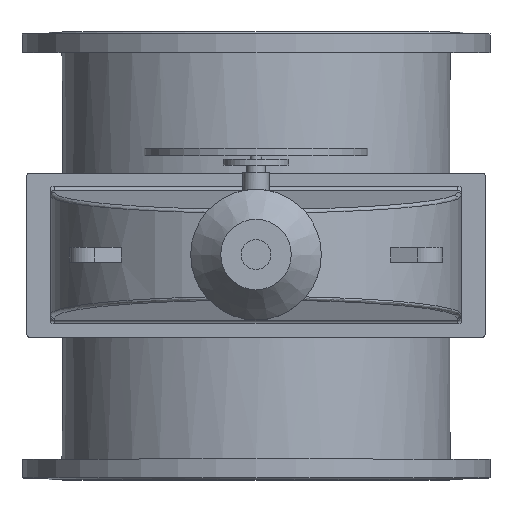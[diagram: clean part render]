
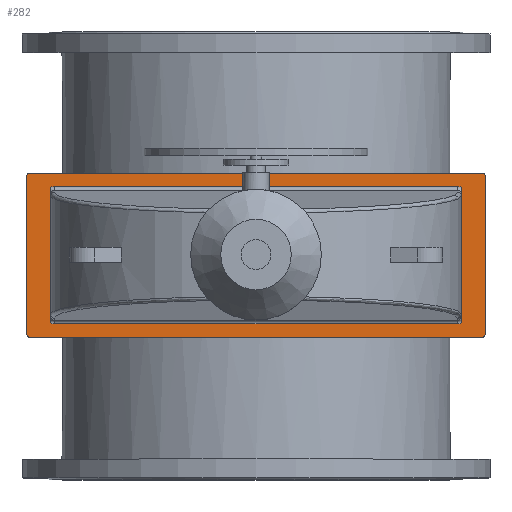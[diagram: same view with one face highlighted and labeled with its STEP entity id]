
A CAD part, top view. The second image highlights one B-rep face of the part: STEP entity #282.
In plain terms, the highlighted planar face has unit normal (0, 0, 1).
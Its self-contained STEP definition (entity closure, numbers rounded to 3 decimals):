
#282=ADVANCED_FACE('',(#3621,#3623),#3625,.T.);
#3621=FACE_BOUND('',#3622,.T.);
#3622=EDGE_LOOP('',(#8276,#8277,#8278,#8279,#8280,#8281,#8282,#8283));
#3623=FACE_BOUND('',#3624,.T.);
#3624=EDGE_LOOP('',(#8284,#8285,#8286,#8287,#8288,#8289,#8290,#8291));
#3625=PLANE('',#3626);
#3626=AXIS2_PLACEMENT_3D('',#3627,#3628,#3629);
#3627=CARTESIAN_POINT('',(0.,0.,1286.));
#3628=DIRECTION('',(0.,-0.,1.));
#3629=DIRECTION('',(0.,1.,0.));
#8276=ORIENTED_EDGE('',*,*,#9570,.F.);
#8277=ORIENTED_EDGE('',*,*,#9571,.T.);
#8278=ORIENTED_EDGE('',*,*,#9572,.F.);
#8279=ORIENTED_EDGE('',*,*,#9573,.T.);
#8280=ORIENTED_EDGE('',*,*,#9574,.F.);
#8281=ORIENTED_EDGE('',*,*,#9575,.T.);
#8282=ORIENTED_EDGE('',*,*,#9576,.F.);
#8283=ORIENTED_EDGE('',*,*,#9577,.T.);
#8284=ORIENTED_EDGE('',*,*,#9578,.F.);
#8285=ORIENTED_EDGE('',*,*,#9540,.F.);
#8286=ORIENTED_EDGE('',*,*,#9579,.F.);
#8287=ORIENTED_EDGE('',*,*,#9580,.F.);
#8288=ORIENTED_EDGE('',*,*,#9581,.F.);
#8289=ORIENTED_EDGE('',*,*,#9529,.F.);
#8290=ORIENTED_EDGE('',*,*,#9568,.F.);
#8291=ORIENTED_EDGE('',*,*,#9582,.F.);
#9529=EDGE_CURVE('',#10217,#10220,#10221,.T.);
#9540=EDGE_CURVE('',#10237,#10232,#10239,.T.);
#9568=EDGE_CURVE('',#10283,#10217,#10284,.F.);
#9570=EDGE_CURVE('',#10286,#10287,#10288,.F.);
#9571=EDGE_CURVE('',#10286,#10289,#10290,.T.);
#9572=EDGE_CURVE('',#10291,#10289,#10292,.F.);
#9573=EDGE_CURVE('',#10291,#10293,#10294,.T.);
#9574=EDGE_CURVE('',#10295,#10293,#10296,.F.);
#9575=EDGE_CURVE('',#10295,#10297,#10298,.T.);
#9576=EDGE_CURVE('',#10299,#10297,#10300,.F.);
#9577=EDGE_CURVE('',#10299,#10287,#10301,.T.);
#9578=EDGE_CURVE('',#10232,#10302,#10303,.T.);
#9579=EDGE_CURVE('',#10304,#10237,#10305,.F.);
#9580=EDGE_CURVE('',#10306,#10304,#10307,.T.);
#9581=EDGE_CURVE('',#10220,#10306,#10308,.T.);
#9582=EDGE_CURVE('',#10302,#10283,#10309,.T.);
#10217=VERTEX_POINT('',#11554);
#10220=VERTEX_POINT('',#11607);
#10221=LINE('',#11608,#11609);
#10232=VERTEX_POINT('',#11684);
#10237=VERTEX_POINT('',#11743);
#10239=LINE('',#11795,#11796);
#10283=VERTEX_POINT('',#11907);
#10284=(BOUNDED_CURVE()B_SPLINE_CURVE(3,
(#11908,#11909,#11910,#11911),
.UNSPECIFIED.,.F.,.F.)B_SPLINE_CURVE_WITH_KNOTS((4,4),
(0.,1.),
.UNSPECIFIED.)CURVE()GEOMETRIC_REPRESENTATION_ITEM()RATIONAL_B_SPLINE_CURVE((1.,
0.977,0.977,1.))REPRESENTATION_ITEM(''));
#10286=VERTEX_POINT('',#11916);
#10287=VERTEX_POINT('',#11917);
#10288=CIRCLE('',#11918,10.);
#10289=VERTEX_POINT('',#11922);
#10290=LINE('',#11923,#11924);
#10291=VERTEX_POINT('',#11926);
#10292=CIRCLE('',#11927,10.);
#10293=VERTEX_POINT('',#11931);
#10294=LINE('',#11932,#11933);
#10295=VERTEX_POINT('',#11935);
#10296=CIRCLE('',#11936,10.);
#10297=VERTEX_POINT('',#11940);
#10298=LINE('',#11941,#11942);
#10299=VERTEX_POINT('',#11944);
#10300=CIRCLE('',#11945,10.);
#10301=LINE('',#11949,#11950);
#10302=VERTEX_POINT('',#11952);
#10303=(BOUNDED_CURVE()B_SPLINE_CURVE(3,
(#11953,#11954,#11955,#11956),
.UNSPECIFIED.,.F.,.F.)B_SPLINE_CURVE_WITH_KNOTS((4,4),
(0.,1.),
.UNSPECIFIED.)CURVE()GEOMETRIC_REPRESENTATION_ITEM()RATIONAL_B_SPLINE_CURVE((1.,
0.977,0.977,1.))REPRESENTATION_ITEM(''));
#10304=VERTEX_POINT('',#11957);
#10305=(BOUNDED_CURVE()B_SPLINE_CURVE(3,
(#11958,#11959,#11960,#11961),
.UNSPECIFIED.,.F.,.F.)B_SPLINE_CURVE_WITH_KNOTS((4,4),
(0.,1.),
.UNSPECIFIED.)CURVE()GEOMETRIC_REPRESENTATION_ITEM()RATIONAL_B_SPLINE_CURVE((1.,
0.977,0.977,1.))REPRESENTATION_ITEM(''));
#10306=VERTEX_POINT('',#11962);
#10307=LINE('',#11963,#11964);
#10308=(BOUNDED_CURVE()B_SPLINE_CURVE(3,
(#11966,#11967,#11968,#11969),
.UNSPECIFIED.,.F.,.F.)B_SPLINE_CURVE_WITH_KNOTS((4,4),
(0.,1.),
.UNSPECIFIED.)CURVE()GEOMETRIC_REPRESENTATION_ITEM()RATIONAL_B_SPLINE_CURVE((1.,
0.977,0.977,1.))REPRESENTATION_ITEM(''));
#10309=LINE('',#11970,#11971);
#11554=CARTESIAN_POINT('',(550.,-181.474,1286.));
#11607=CARTESIAN_POINT('',(550.,181.474,1286.));
#11608=CARTESIAN_POINT('',(550.,-181.474,1286.));
#11609=VECTOR('',#11610,1.);
#11610=DIRECTION('',(0.,1.,0.));
#11684=CARTESIAN_POINT('',(-550.,-181.474,1286.));
#11743=CARTESIAN_POINT('',(-550.,181.474,1286.));
#11795=CARTESIAN_POINT('',(-550.,181.474,1286.));
#11796=VECTOR('',#11797,1.);
#11797=DIRECTION('',(0.,-1.,0.));
#11907=CARTESIAN_POINT('',(540.,-184.163,1286.));
#11908=CARTESIAN_POINT('',(550.,-181.474,1286.));
#11909=CARTESIAN_POINT('',(546.942,-183.246,1286.));
#11910=CARTESIAN_POINT('',(543.531,-184.163,1286.));
#11911=CARTESIAN_POINT('',(540.,-184.163,1286.));
#11916=CARTESIAN_POINT('',(-605.,-220.,1286.));
#11917=CARTESIAN_POINT('',(-615.,-210.,1286.));
#11918=AXIS2_PLACEMENT_3D('',#11919,#11920,#11921);
#11919=CARTESIAN_POINT('',(-605.,-210.,1286.));
#11920=DIRECTION('',(0.,-0.,1.));
#11921=DIRECTION('',(-1.,0.,0.));
#11922=CARTESIAN_POINT('',(605.,-220.,1286.));
#11923=CARTESIAN_POINT('',(-605.,-220.,1286.));
#11924=VECTOR('',#11925,1.);
#11925=DIRECTION('',(1.,0.,0.));
#11926=CARTESIAN_POINT('',(615.,-210.,1286.));
#11927=AXIS2_PLACEMENT_3D('',#11928,#11929,#11930);
#11928=CARTESIAN_POINT('',(605.,-210.,1286.));
#11929=DIRECTION('',(0.,-0.,1.));
#11930=DIRECTION('',(0.,-1.,0.));
#11931=CARTESIAN_POINT('',(615.,210.,1286.));
#11932=CARTESIAN_POINT('',(615.,-210.,1286.));
#11933=VECTOR('',#11934,1.);
#11934=DIRECTION('',(0.,1.,0.));
#11935=CARTESIAN_POINT('',(605.,220.,1286.));
#11936=AXIS2_PLACEMENT_3D('',#11937,#11938,#11939);
#11937=CARTESIAN_POINT('',(605.,210.,1286.));
#11938=DIRECTION('',(0.,-0.,1.));
#11939=DIRECTION('',(1.,0.,0.));
#11940=CARTESIAN_POINT('',(-605.,220.,1286.));
#11941=CARTESIAN_POINT('',(605.,220.,1286.));
#11942=VECTOR('',#11943,1.);
#11943=DIRECTION('',(-1.,0.,0.));
#11944=CARTESIAN_POINT('',(-615.,210.,1286.));
#11945=AXIS2_PLACEMENT_3D('',#11946,#11947,#11948);
#11946=CARTESIAN_POINT('',(-605.,210.,1286.));
#11947=DIRECTION('',(0.,-0.,1.));
#11948=DIRECTION('',(0.,1.,0.));
#11949=CARTESIAN_POINT('',(-615.,210.,1286.));
#11950=VECTOR('',#11951,1.);
#11951=DIRECTION('',(0.,-1.,0.));
#11952=CARTESIAN_POINT('',(-540.,-184.163,1286.));
#11953=CARTESIAN_POINT('',(-550.,-181.474,1286.));
#11954=CARTESIAN_POINT('',(-546.942,-183.246,1286.));
#11955=CARTESIAN_POINT('',(-543.531,-184.163,1286.));
#11956=CARTESIAN_POINT('',(-540.,-184.163,1286.));
#11957=CARTESIAN_POINT('',(-540.,184.163,1286.));
#11958=CARTESIAN_POINT('',(-550.,181.474,1286.));
#11959=CARTESIAN_POINT('',(-546.942,183.246,1286.));
#11960=CARTESIAN_POINT('',(-543.531,184.163,1286.));
#11961=CARTESIAN_POINT('',(-540.,184.163,1286.));
#11962=CARTESIAN_POINT('',(540.,184.163,1286.));
#11963=CARTESIAN_POINT('',(540.,184.163,1286.));
#11964=VECTOR('',#11965,1.);
#11965=DIRECTION('',(-1.,0.,0.));
#11966=CARTESIAN_POINT('',(550.,181.474,1286.));
#11967=CARTESIAN_POINT('',(546.942,183.246,1286.));
#11968=CARTESIAN_POINT('',(543.531,184.163,1286.));
#11969=CARTESIAN_POINT('',(540.,184.163,1286.));
#11970=CARTESIAN_POINT('',(-540.,-184.163,1286.));
#11971=VECTOR('',#11972,1.);
#11972=DIRECTION('',(1.,0.,0.));
